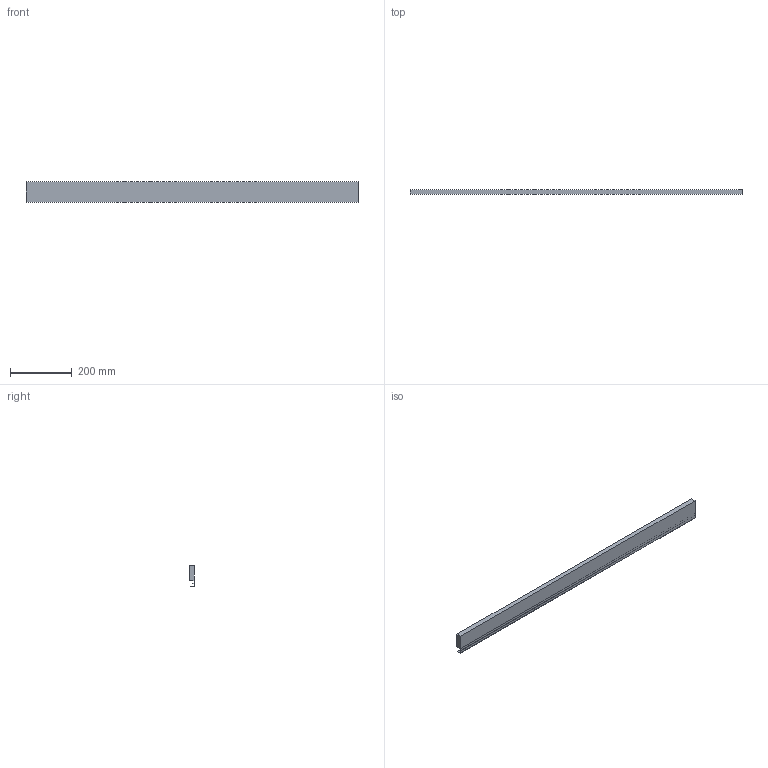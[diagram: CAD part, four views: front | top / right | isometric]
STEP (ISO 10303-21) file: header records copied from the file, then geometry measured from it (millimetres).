
FILE_DESCRIPTION (( 'STEP AP214' ), '1' );
FILE_NAME ('Innenschub-Blendenprofil_KAB1200_S18.step', '2010-09-23T12:27:04', ( 'grass' ), ( '' ), 'SwSTEP 2.0', 'SolidWorks 2010', '' );
FILE_SCHEMA (( 'AUTOMOTIVE_DESIGN' ));
Length unit declared in the file: millimetre
Products named in the file (1): Innenschub-Blendenprofil_KAB1200_S18
Bounding box: 1073 x 15.9 x 67.6 mm (x, y, z)
Volume: 889716.3 mm3; surface area: 212215.6 mm2
Topology: 1 solids, 1 shells, 17 faces, 42 edges, 28 vertices
Faces by surface type: plane 15, cylinder 2
Entity records: 534 total; most frequent: CARTESIAN_POINT 88, ORIENTED_EDGE 84, DIRECTION 82, EDGE_CURVE 42, VECTOR 38, LINE 38, VERTEX_POINT 28, AXIS2_PLACEMENT_3D 22
